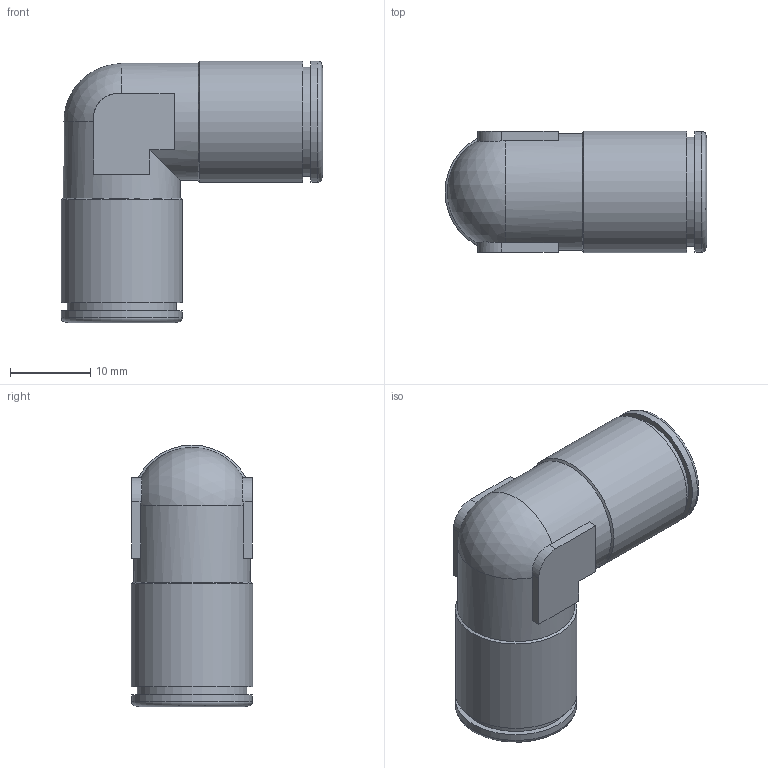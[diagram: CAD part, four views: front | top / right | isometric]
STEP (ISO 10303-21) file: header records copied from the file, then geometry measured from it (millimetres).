
FILE_DESCRIPTION(/* description */ (''),/* implementation_level */ '2;1');
FILE_NAME(/* name */ '200405-ES_STX04_10_10_07.06.16',/* time_stamp */ '2016-06-07T12:13:35+02:00',/* author */ (''),/* organization */ (''),/* preprocessor_version */ 'ST-DEVELOPER v14',/* originating_system */ 'HiCAD 2013 1802.4 Build 509',/* authorisation */ '');
FILE_SCHEMA (('AUTOMOTIVE_DESIGN { 1 0 10303 214 1 1 1 1 }'));
Length unit declared in the file: millimetre
Products named in the file (4): Root; R200405-ES-N; DR10-N
Assembly tree (3 placements, depth 2):
  Root
    R200405-ES-N
    DR10-N
    DR10-N
Bounding box: 32.55 x 15.1 x 32.55 mm (x, y, z)
Volume: 4347.1 mm3; surface area: 5573.4 mm2
Topology: 3 solids, 3 shells, 77 faces, 167 edges, 100 vertices
Faces by surface type: cylinder 26, cone 24, plane 24, torus 2, sphere 1
Full cylindrical faces by diameter (mm): 8 x2, 10.2 x4, 12.3 x2, 13 x2, 13.6 x2, 13.7 x2, 14.5 x2, 15 x2, 15.1 x2
Entity records: 5417 total; most frequent: CARTESIAN_POINT 2536, DIRECTION 348, PRESENTATION_STYLE_ASSIGNMENT 257, OVER_RIDING_STYLED_ITEM 254, COLOUR_RGB 240, DRAUGHTING_PRE_DEFINED_CURVE_FONT 238, CURVE_STYLE 238, ORIENTED_EDGE 238
